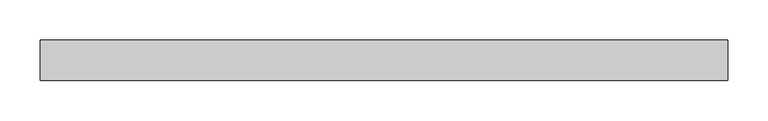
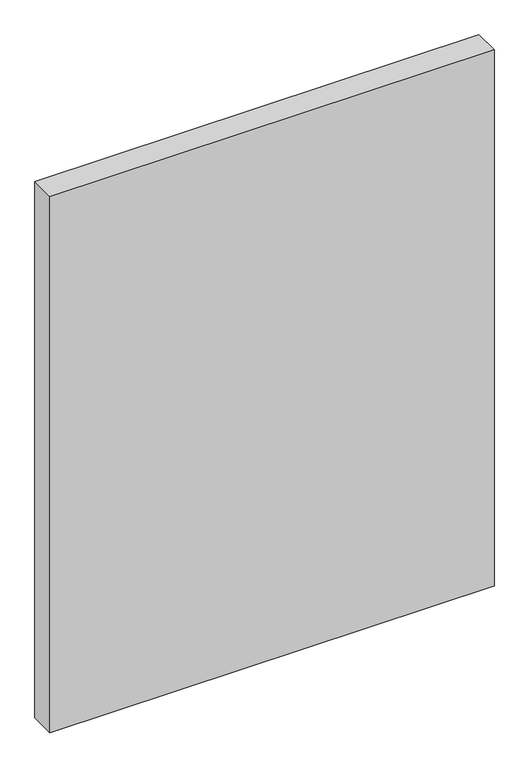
"""IFC4 building model written with IfcOpenShell, lengths in millimetres: plate geometry, Системная панель : Стекло(50мм)."""

from ifc_helpers import new_model, si_unit, origin, origin_with_axes, place, context, project, spatial, polyline, outline, extrude, source, transform, mapped, element, save


def plate_d41ff481(model_context):
    return source(origin(), model_context, "Body", "SweptSolid", [
        extrude(outline(polyline([(425.0, -25.0), (-425.0, -25.0), (-425.0, 25.0), (425.0, 25.0), (425.0, -25.0)])), origin_with_axes(), (0.0, 0.0, 1.0), 1085.0),
    ])


if __name__ == "__main__":
    model = new_model("IFC4")
    model_context = context("Model", 3, world=origin())
    ifc_project = project(units=[si_unit("LENGTHUNIT", "METRE", prefix="MILLI")], contexts=[model_context])
    site = spatial("IfcSite", under=ifc_project)
    building = spatial("IfcBuilding", under=site)
    placement = place(None, origin())
    plate_shape = plate_d41ff481(model_context)
    element("IfcPlate", 1, ObjectType="Системная панель : Стекло(50мм)", at=placement, inside=building, context=model_context, shape_type="MappedRepresentation", body=[
        mapped(plate_shape, transform((0.0, 0.0, 0.0), x_axis=(1.0, 0.0, 0.0), y_axis=(0.0, 1.0, 0.0), z_axis=(0.0, 0.0, 1.0))),
    ])
    save(model, "model.ifc")
